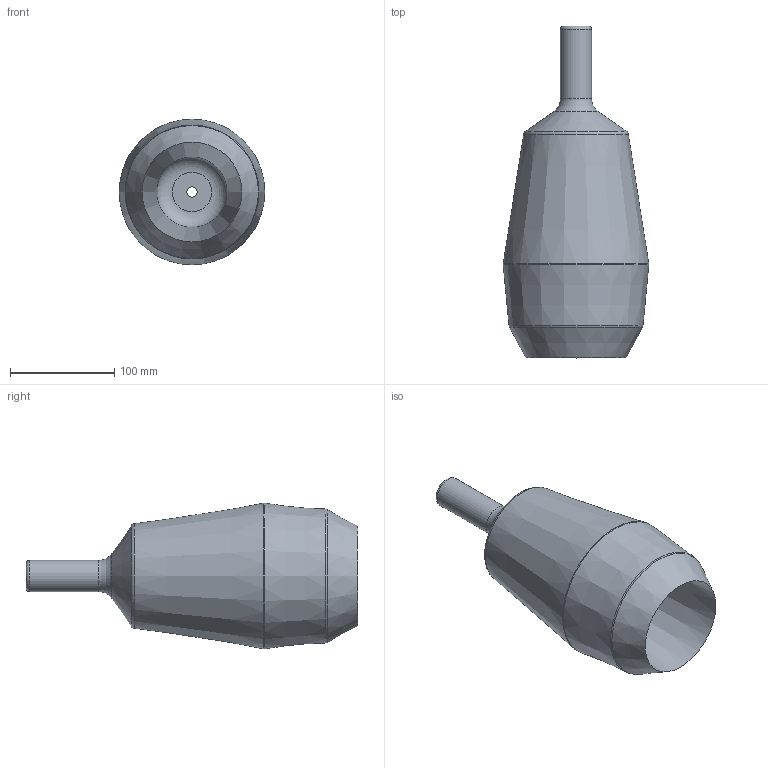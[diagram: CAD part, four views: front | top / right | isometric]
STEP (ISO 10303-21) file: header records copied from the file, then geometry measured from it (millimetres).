
FILE_DESCRIPTION(/* description */ (''),/* implementation_level */ '2;1');
FILE_NAME(/* name */ 'C:\Users\STEFANO\Desktop\3D SEM\1602-23 - MOM SOSPENSIONE SLIM F.E\SEM.000039.stp',/* time_stamp */ '2019-09-16T16:43:59+02:00',/* author */ ('STEFANO'),/* organization */ (''),/* preprocessor_version */ 'ST-DEVELOPER v17',/* originating_system */ 'Autodesk Inventor 2019',/* authorisation */ '');
FILE_SCHEMA (('AUTOMOTIVE_DESIGN { 1 0 10303 214 3 1 1 }'));
Length unit declared in the file: millimetre
Products named in the file (1): VETRO SLIM
Bounding box: 140.04 x 319 x 140.04 mm (x, y, z)
Volume: 385366.8 mm3; surface area: 308445.5 mm2
Topology: 1 solids, 1 shells, 30 faces, 101 edges, 75 vertices
Faces by surface type: torus 12, cone 10, cylinder 4, plane 4
Full cylindrical faces by diameter (mm): 10 x2, 25 x1, 30 x1
Entity records: 1239 total; most frequent: DIRECTION 250, CARTESIAN_POINT 207, ORIENTED_EDGE 202, AXIS2_PLACEMENT_3D 118, EDGE_CURVE 101, CIRCLE 87, VERTEX_POINT 75, EDGE_LOOP 34
